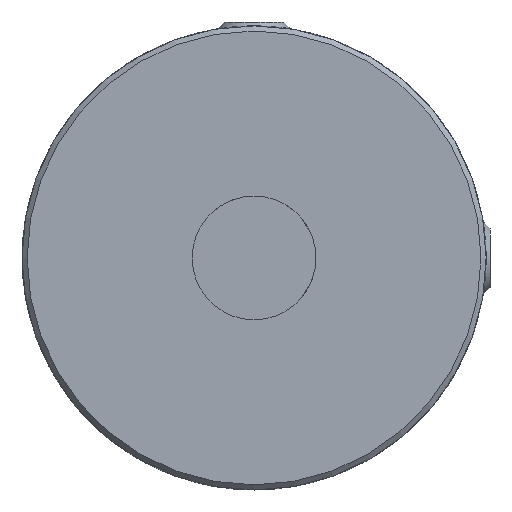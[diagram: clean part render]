
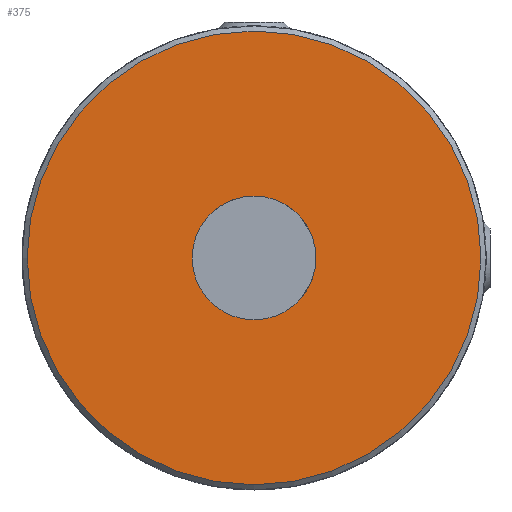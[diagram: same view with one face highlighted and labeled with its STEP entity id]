
A CAD part, left-side view. The second image highlights one B-rep face of the part: STEP entity #375.
In plain terms, the highlighted planar face has unit normal (-1, 0, 0).
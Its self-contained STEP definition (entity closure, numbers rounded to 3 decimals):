
#375 = ADVANCED_FACE( '', ( #847, #848 ), #849, .F. );
#847 = FACE_OUTER_BOUND( '', #1412, .T. );
#848 = FACE_BOUND( '', #1413, .T. );
#849 = PLANE( '', #1414 );
#1412 = EDGE_LOOP( '', ( #2455 ) );
#1413 = EDGE_LOOP( '', ( #2456 ) );
#1414 = AXIS2_PLACEMENT_3D( '', #2457, #2458, #2459 );
#2455 = ORIENTED_EDGE( '', *, *, #3083, .T. );
#2456 = ORIENTED_EDGE( '', *, *, #3086, .F. );
#2457 = CARTESIAN_POINT( '', ( -17.5, -14.667, 0. ) );
#2458 = DIRECTION( '', ( 1., 0., 0. ) );
#2459 = DIRECTION( '', ( 0., 0., 1. ) );
#3083 = EDGE_CURVE( '', #3631, #3631, #3632, .T. );
#3086 = EDGE_CURVE( '', #3636, #3636, #3637, .T. );
#3631 = VERTEX_POINT( '', #4409 );
#3632 = CIRCLE( '', #4410, 14.667 );
#3636 = VERTEX_POINT( '', #4414 );
#3637 = CIRCLE( '', #4415, 4. );
#4409 = CARTESIAN_POINT( '', ( -17.5, -14.667, 0. ) );
#4410 = AXIS2_PLACEMENT_3D( '', #5852, #5853, #5854 );
#4414 = CARTESIAN_POINT( '', ( -17.5, -4., 0. ) );
#4415 = AXIS2_PLACEMENT_3D( '', #5858, #5859, #5860 );
#5852 = CARTESIAN_POINT( '', ( -17.5, 0., 0. ) );
#5853 = DIRECTION( '', ( -1., 0., 0. ) );
#5854 = DIRECTION( '', ( 0., -1., 0. ) );
#5858 = CARTESIAN_POINT( '', ( -17.5, 0., 0. ) );
#5859 = DIRECTION( '', ( -1., 0., 0. ) );
#5860 = DIRECTION( '', ( 0., -1., 0. ) );
